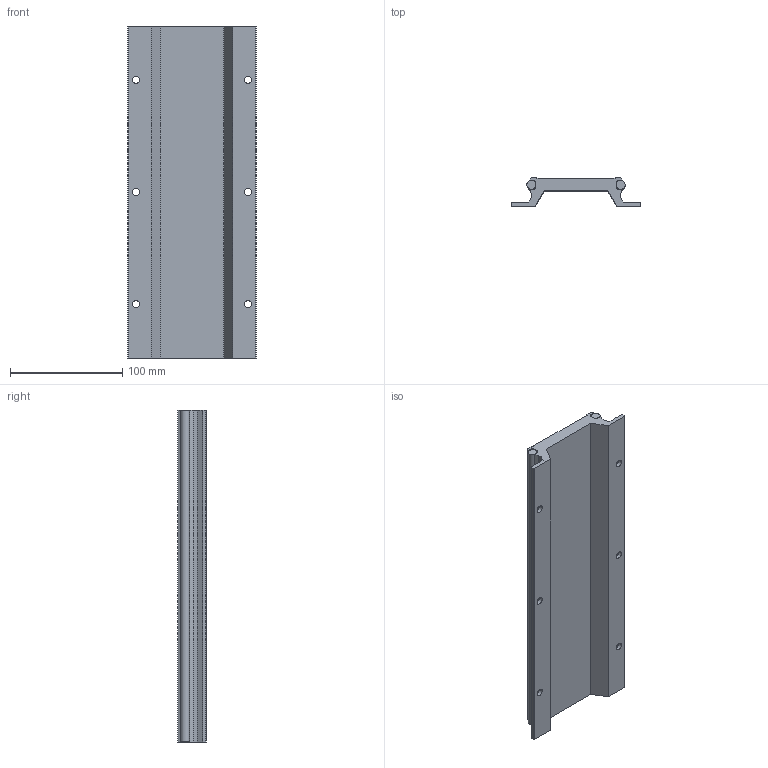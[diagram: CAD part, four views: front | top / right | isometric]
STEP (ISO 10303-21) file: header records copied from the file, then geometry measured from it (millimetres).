
FILE_DESCRIPTION (( 'STEP AP203' ), '1' );
FILE_NAME ('MLF 3_-_MLF 3 296 mm lang.step', '2005-06-03T09:57:26', ( ' ' ), ( ' ' ), 'SwSTEP 2.0', 'SolidWorks 2004231', '' );
FILE_SCHEMA (( 'CONFIG_CONTROL_DESIGN' ));
Length unit declared in the file: millimetre
Products named in the file (1): MLF 3_-_MLF 3  296 mm lang
Bounding box: 115 x 25.5 x 296 mm (x, y, z)
Volume: 384174.2 mm3; surface area: 106564.5 mm2
Topology: 1 solids, 1 shells, 104 faces, 336 edges, 220 vertices
Faces by surface type: plane 72, cylinder 32
Entity records: 3797 total; most frequent: CARTESIAN_POINT 733, ORIENTED_EDGE 672, DIRECTION 598, EDGE_CURVE 336, VECTOR 236, LINE 236, VERTEX_POINT 220, AXIS2_PLACEMENT_3D 181
